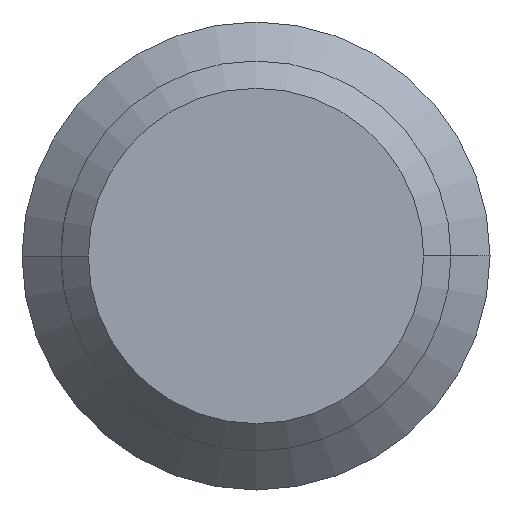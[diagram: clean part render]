
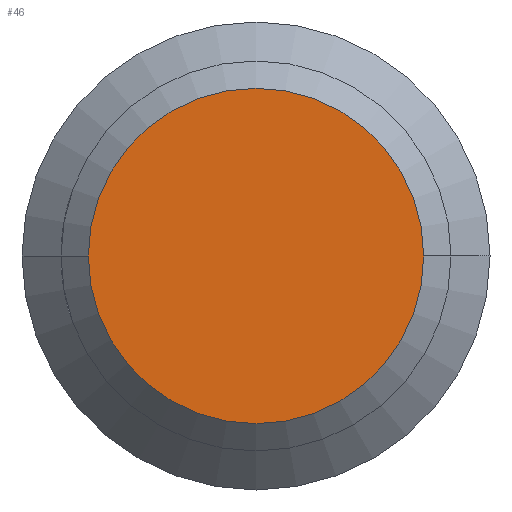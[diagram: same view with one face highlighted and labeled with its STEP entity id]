
A CAD part, left-side view. The second image highlights one B-rep face of the part: STEP entity #46.
In plain terms, the highlighted planar face has unit normal (-1, 0, 0).
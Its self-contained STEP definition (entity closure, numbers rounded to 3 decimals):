
#29 = EDGE_LOOP ( 'NONE', ( #686, #609 ) ) ;
#46 = ADVANCED_FACE ( 'NONE', ( #477 ), #478, .T. ) ;
#179 = CARTESIAN_POINT ( 'NONE',  ( -155., -21.5, 0. ) ) ;
#182 = CIRCLE ( 'NONE', #183, 21.5 ) ;
#183 = AXIS2_PLACEMENT_3D ( 'NONE', #184, #185, #186 ) ;
#184 = CARTESIAN_POINT ( 'NONE',  ( -155., 0., 0. ) ) ;
#185 = DIRECTION ( 'NONE',  ( -1., 0., 0. ) ) ;
#186 = DIRECTION ( 'NONE',  ( 0., -1., 0. ) ) ;
#309 = CIRCLE ( 'NONE', #310, 21.5 ) ;
#310 = AXIS2_PLACEMENT_3D ( 'NONE', #311, #312, #313 ) ;
#311 = CARTESIAN_POINT ( 'NONE',  ( -155., 0., 0. ) ) ;
#312 = DIRECTION ( 'NONE',  ( -1., 0., 0. ) ) ;
#313 = DIRECTION ( 'NONE',  ( 0., -1., 0. ) ) ;
#360 = VERTEX_POINT ( 'NONE', #379 ) ;
#379 = CARTESIAN_POINT ( 'NONE',  ( -155., 21.5, 0. ) ) ;
#477 = FACE_OUTER_BOUND ( 'NONE', #29, .T. ) ;
#478 = PLANE ( 'NONE',  #479 ) ;
#479 = AXIS2_PLACEMENT_3D ( 'NONE', #480, #481, #482 ) ;
#480 = CARTESIAN_POINT ( 'NONE',  ( -155., 0., 0. ) ) ;
#481 = DIRECTION ( 'NONE',  ( -1., 0., 0. ) ) ;
#482 = DIRECTION ( 'NONE',  ( 0., -1., 0. ) ) ;
#601 = VERTEX_POINT ( 'NONE', #179 ) ;
#609 = ORIENTED_EDGE ( 'NONE', *, *, #623, .T. ) ;
#623 = EDGE_CURVE ( 'NONE', #601, #360, #309, .T. ) ;
#657 = EDGE_CURVE ( 'NONE', #360, #601, #182, .T. ) ;
#686 = ORIENTED_EDGE ( 'NONE', *, *, #657, .T. ) ;
